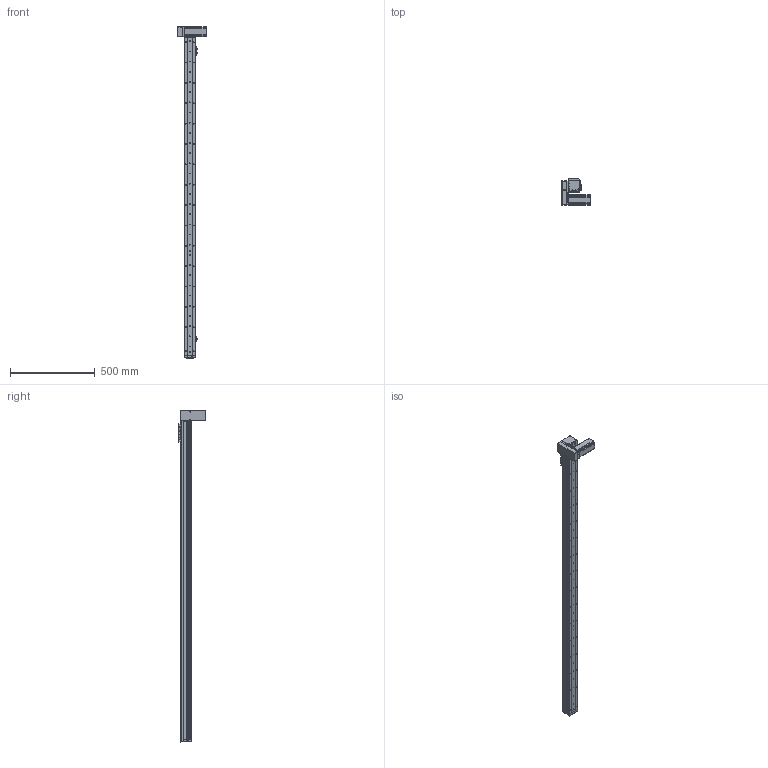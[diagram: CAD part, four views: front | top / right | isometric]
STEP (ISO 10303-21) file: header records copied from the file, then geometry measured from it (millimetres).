
FILE_DESCRIPTION (( 'STEP AP214' ), '1' );
FILE_NAME ('KSD68BS-S1700-MRD-CR.STEP', '2019-08-28T02:52:22', ( '微软用户' ), ( '微软中国' ), 'SwSTEP 2.0', 'SolidWorks 2014', '' );
FILE_SCHEMA (( 'AUTOMOTIVE_DESIGN' ));
Length unit declared in the file: millimetre
Products named in the file (14): KSD68BS 1700行程底板全封闭; KSD68BS-S1700-MRD-CR; KSD68BS 1700行程盖板全封闭; 68遵裔啣揤啣1; 68宽单导轨全封闭丝杆传动安装板1防护罩; KSD68BS 1700行程侧板全封闭; 68宽单导轨全封闭同步带端板; 68单导轨全封闭同步带电机座右; 68单导轨全封闭同步带安装板; 悵誘欶奻狟殏; 68宽马达安装板连板上折同步带; 感应片68宽全封闭; U倰嫖萇EEㄜSX672; 台达ECMA－C20604AS伺服电机（400W)
Assembly tree (17 placements, depth 2):
  KSD68BS-S1700-MRD-CR
    KSD68BS 1700行程底板全封闭
    台达ECMA－C20604AS伺服电机（400W)
    U倰嫖萇EEㄜSX672  x3
    感应片68宽全封闭
    68宽马达安装板连板上折同步带
    悵誘欶奻狟殏
    68单导轨全封闭同步带安装板
    68单导轨全封闭同步带电机座右
    68宽单导轨全封闭同步带端板
    KSD68BS 1700行程侧板全封闭  x2
    68宽单导轨全封闭丝杆传动安装板1防护罩
    68遵裔啣揤啣1  x2
    KSD68BS 1700行程盖板全封闭
Bounding box: 167.2 x 155.5 x 1958.1 mm (x, y, z)
Volume: 3480405.6 mm3; surface area: 1416897 mm2
Topology: 18 solids, 18 shells, 1622 faces, 4679 edges, 2979 vertices
Faces by surface type: cylinder 799, plane 631, cone 192
Entity records: 53058 total; most frequent: CARTESIAN_POINT 9209, DIRECTION 7899, ORIENTED_EDGE 7554, EDGE_CURVE 3777, AXIS2_PLACEMENT_3D 2883, VERTEX_POINT 2477, VECTOR 2133, LINE 2133
